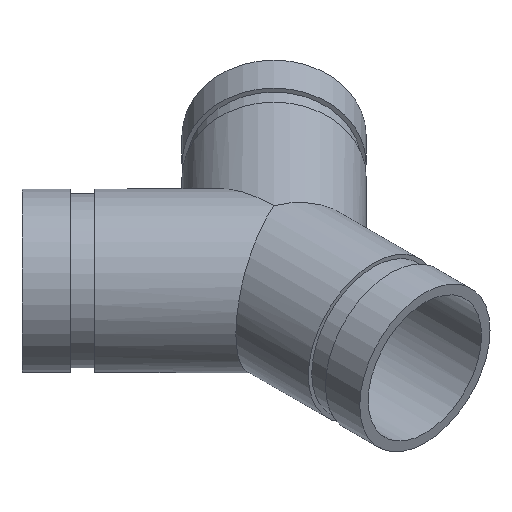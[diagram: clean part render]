
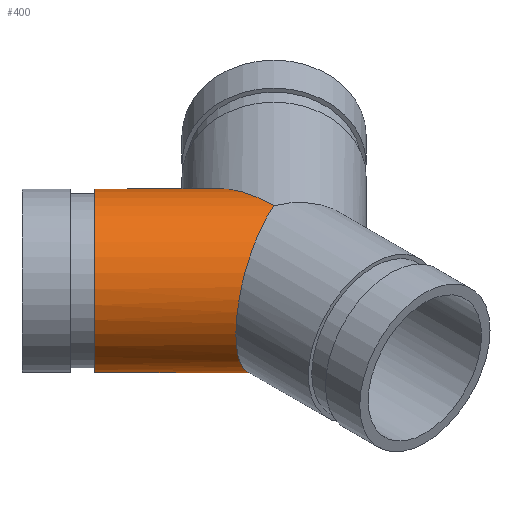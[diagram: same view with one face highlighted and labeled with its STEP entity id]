
A CAD part, isometric view. The second image highlights one B-rep face of the part: STEP entity #400.
In plain terms, the highlighted cylindrical face has radius 30.163 mm (diameter 60.325 mm), a full revolution.
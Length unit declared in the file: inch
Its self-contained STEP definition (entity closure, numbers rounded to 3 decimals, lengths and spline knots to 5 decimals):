
#76=FACE_OUTER_BOUND('',#103,.T.);
#103=EDGE_LOOP('',(#314,#315,#316,#317,#318,#319,#320,#321));
#118=ELLIPSE('',#470,1.67938,1.1875);
#119=ELLIPSE('',#471,1.28534,1.1875);
#120=ELLIPSE('',#472,1.28534,1.1875);
#121=ELLIPSE('',#473,1.67938,1.1875);
#131=LINE('',#735,#143);
#143=VECTOR('',#595,1.1875);
#156=CIRCLE('',#446,1.1875);
#157=CIRCLE('',#447,1.1875);
#186=VERTEX_POINT('',#686);
#187=VERTEX_POINT('',#687);
#202=VERTEX_POINT('',#730);
#203=VERTEX_POINT('',#731);
#204=VERTEX_POINT('',#733);
#205=VERTEX_POINT('',#736);
#223=EDGE_CURVE('',#186,#187,#156,.T.);
#224=EDGE_CURVE('',#187,#186,#157,.T.);
#243=EDGE_CURVE('',#202,#203,#118,.T.);
#244=EDGE_CURVE('',#204,#202,#119,.T.);
#245=EDGE_CURVE('',#204,#187,#131,.T.);
#246=EDGE_CURVE('',#205,#204,#120,.T.);
#247=EDGE_CURVE('',#203,#205,#121,.T.);
#314=ORIENTED_EDGE('',*,*,#243,.F.);
#315=ORIENTED_EDGE('',*,*,#244,.F.);
#316=ORIENTED_EDGE('',*,*,#245,.T.);
#317=ORIENTED_EDGE('',*,*,#224,.T.);
#318=ORIENTED_EDGE('',*,*,#223,.T.);
#319=ORIENTED_EDGE('',*,*,#245,.F.);
#320=ORIENTED_EDGE('',*,*,#246,.F.);
#321=ORIENTED_EDGE('',*,*,#247,.F.);
#359=CYLINDRICAL_SURFACE('',#469,1.1875);
#400=ADVANCED_FACE('',(#76),#359,.T.);
#446=AXIS2_PLACEMENT_3D('',#688,#539,#540);
#447=AXIS2_PLACEMENT_3D('',#689,#541,#542);
#469=AXIS2_PLACEMENT_3D('',#729,#589,#590);
#470=AXIS2_PLACEMENT_3D('',#732,#591,#592);
#471=AXIS2_PLACEMENT_3D('',#734,#593,#594);
#472=AXIS2_PLACEMENT_3D('',#737,#596,#597);
#473=AXIS2_PLACEMENT_3D('',#738,#598,#599);
#539=DIRECTION('center_axis',(0.707,-0.707,0.));
#540=DIRECTION('ref_axis',(0.707,0.707,0.));
#541=DIRECTION('center_axis',(0.707,-0.707,0.));
#542=DIRECTION('ref_axis',(0.707,0.707,0.));
#589=DIRECTION('center_axis',(0.707,-0.707,0.));
#590=DIRECTION('ref_axis',(0.707,0.707,0.));
#591=DIRECTION('center_axis',(1.,0.,0.));
#592=DIRECTION('ref_axis',(0.,1.,0.));
#593=DIRECTION('center_axis',(0.383,-0.924,0.));
#594=DIRECTION('ref_axis',(0.924,0.383,0.));
#595=DIRECTION('',(-0.707,0.707,0.));
#596=DIRECTION('center_axis',(0.383,-0.924,0.));
#597=DIRECTION('ref_axis',(0.924,0.383,0.));
#598=DIRECTION('center_axis',(1.,0.,0.));
#599=DIRECTION('ref_axis',(0.,1.,0.));
#686=CARTESIAN_POINT('',(-0.79514,2.47452,0.));
#687=CARTESIAN_POINT('',(-2.47452,0.79514,0.));
#688=CARTESIAN_POINT('Origin',(-1.63483,1.63483,0.));
#689=CARTESIAN_POINT('Origin',(-1.63483,1.63483,0.));
#729=CARTESIAN_POINT('Origin',(-2.2981,2.2981,0.));
#730=CARTESIAN_POINT('',(0.,0.,-1.1875));
#731=CARTESIAN_POINT('',(0.,1.67938,0.));
#732=CARTESIAN_POINT('Origin',(0.,0.,0.));
#733=CARTESIAN_POINT('',(-1.1875,-0.49188,0.));
#734=CARTESIAN_POINT('Origin',(0.,0.,0.));
#735=CARTESIAN_POINT('',(-3.13779,1.45841,0.));
#736=CARTESIAN_POINT('',(0.,0.,1.1875));
#737=CARTESIAN_POINT('Origin',(0.,0.,0.));
#738=CARTESIAN_POINT('Origin',(0.,0.,0.));
